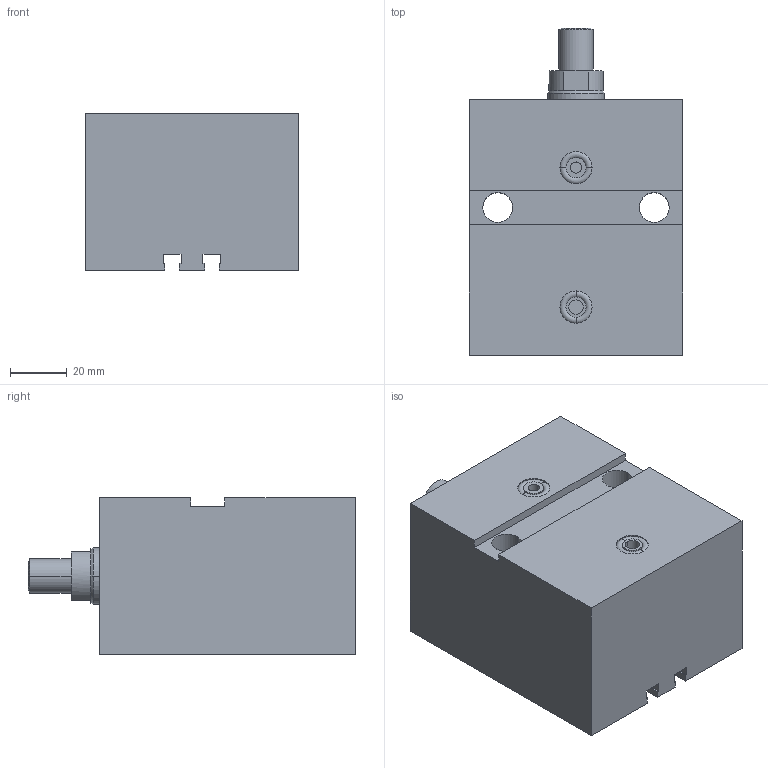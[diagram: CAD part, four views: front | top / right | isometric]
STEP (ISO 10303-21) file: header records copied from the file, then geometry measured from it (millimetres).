
FILE_DESCRIPTION (( 'STEP AP203' ), '1' );
FILE_NAME ('GERMA_Blockzylinder_704-032-025-A.STEP', '2016-07-23T08:48:50', ( '' ), ( '' ), 'SwSTEP 2.0', 'SolidWorks 2015', '' );
FILE_SCHEMA (( 'CONFIG_CONTROL_DESIGN' ));
Length unit declared in the file: millimetre
Products named in the file (3): GH-700-032_GH-704-032-025; Kolben_MT 70x-032_Kolben_MT DU.32-Hub25-AG; GERMA_Blockzylinder_704-032-025-A
Assembly tree (2 placements, depth 2):
  GERMA_Blockzylinder_704-032-025-A
    GH-700-032_GH-704-032-025
    Kolben_MT 70x-032_Kolben_MT DU.32-Hub25-AG
Bounding box: 75 x 115 x 55 mm (x, y, z)
Volume: 345456 mm3; surface area: 53087.9 mm2
Topology: 2 solids, 2 shells, 96 faces, 220 edges, 137 vertices
Faces by surface type: plane 43, cylinder 37, cone 12, torus 4
Entity records: 2994 total; most frequent: DIRECTION 507, CARTESIAN_POINT 454, ORIENTED_EDGE 432, EDGE_CURVE 216, AXIS2_PLACEMENT_3D 190, VERTEX_POINT 137, LINE 127, VECTOR 127
